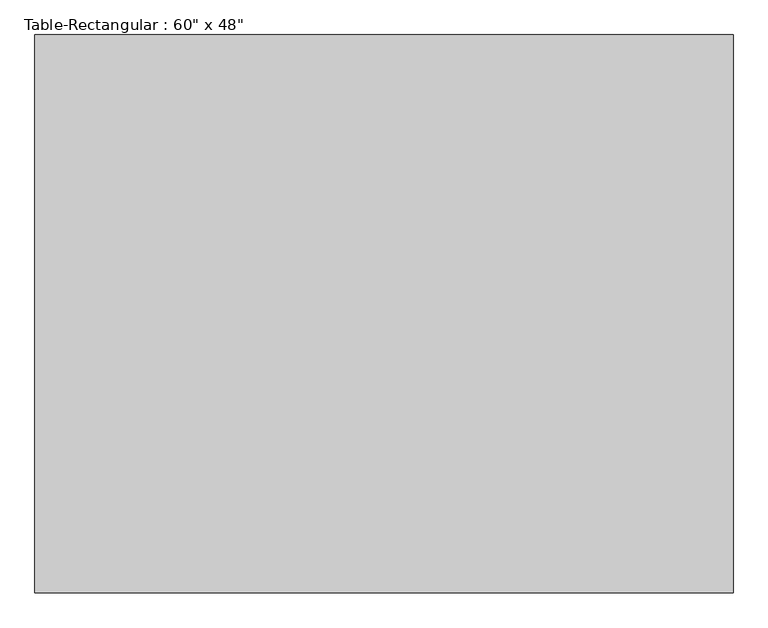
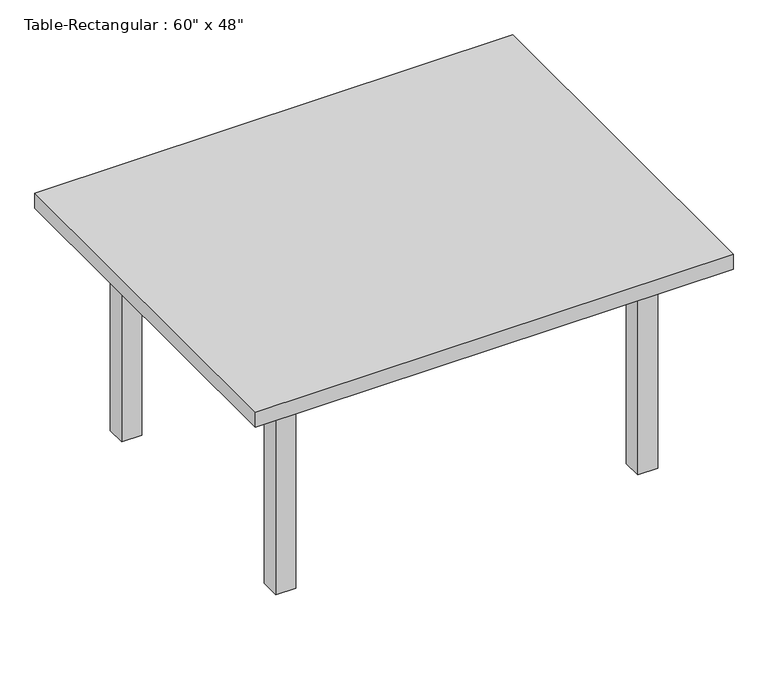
"""IFC4 building model written with IfcOpenShell, lengths in millimetres: furniture geometry."""

import ifcopenshell
import ifcopenshell.guid

model = None  # the IFC model being written
_history = None  # IfcOwnerHistory: only IFC2X3 demands one
_inside = {}  # id of a spatial element -> (the spatial element, [elements in it])
_under = {}  # id of a project, library or spatial element -> (it, [spatial elements below it])
_declared = {}  # id of a project -> (the project, [libraries it declares])
_typed = {}  # id of a type object -> (the type object, [elements of that type])
_made_of = {}  # id of a material, layer set ... -> (it, [elements and type objects made of it])


def new_model(schema):
    """Start an empty IFC model of exactly this schema.

    Asked for "IFC4X3", IfcOpenShell would pick the latest addendum, in which some entities
    have other attributes; the version numbers below select the first issue.
    IFC2X3 requires an IfcOwnerHistory on every rooted entity: one is made here for all.
    """
    global model, _history
    if schema == "IFC4X3":
        model = ifcopenshell.file(schema_version=(4, 3, 0, 0))
    else:
        model = ifcopenshell.file(schema=schema)
    _inside.clear()
    _under.clear()
    _declared.clear()
    _typed.clear()
    _made_of.clear()
    _history = None
    if model.schema == "IFC2X3":
        org = make("IfcOrganization", Name="unknown")
        user = make(
            "IfcPersonAndOrganization",
            ThePerson=make("IfcPerson", FamilyName="unknown"),
            TheOrganization=org,
        )
        app = make(
            "IfcApplication",
            ApplicationDeveloper=org,
            Version="unknown",
            ApplicationFullName="unknown",
            ApplicationIdentifier="unknown",
        )
        _history = make(
            "IfcOwnerHistory",
            OwningUser=user,
            OwningApplication=app,
            ChangeAction="ADDED",
            CreationDate=0,
        )
    return model


def make(cls, **values):
    """One entity of the class cls with the attributes given. An attribute that is None is left unset."""
    return model.create_entity(
        cls, **{name: value for name, value in values.items() if value is not None}
    )


def rooted(cls, **values):
    """An entity with a GlobalId (a new one), such as an element, a storey or a relation."""
    return make(cls, GlobalId=ifcopenshell.guid.new(), OwnerHistory=_history, **values)


def si_unit(unit_type, name, prefix=None):
    """IfcSIUnit, for example si_unit("LENGTHUNIT", "METRE", prefix="MILLI")."""
    return make("IfcSIUnit", UnitType=unit_type, Prefix=prefix, Name=name)


def assignment(units):
    """IfcUnitAssignment: the units of a project."""
    return None if units is None else make("IfcUnitAssignment", Units=units)


def point(xyz):
    """IfcCartesianPoint."""
    return None if xyz is None else make("IfcCartesianPoint", Coordinates=xyz)


def direction(xyz):
    """IfcDirection."""
    return None if xyz is None else make("IfcDirection", DirectionRatios=xyz)


def frame(location, z_axis=None, x_axis=None):
    """IfcAxis2Placement3D, a coordinate frame: its origin and axes. An axis left out is left unset."""
    return make(
        "IfcAxis2Placement3D",
        Location=point(location),
        Axis=direction(z_axis),
        RefDirection=direction(x_axis),
    )


def origin():
    """The frame at (0, 0, 0) with its axes left unset."""
    return frame((0.0, 0.0, 0.0))


def origin_with_axes():
    """The frame at (0, 0, 0) with the z axis (0, 0, 1) and the x axis (1, 0, 0) written out."""
    return frame((0.0, 0.0, 0.0), z_axis=(0.0, 0.0, 1.0), x_axis=(1.0, 0.0, 0.0))


def place(relative_to, where):
    """IfcLocalPlacement: puts the frame where relative to a parent placement (None: the world)."""
    return make(
        "IfcLocalPlacement", PlacementRelTo=relative_to, RelativePlacement=where
    )


def context(
    kind, dimensions, precision=None, world=None, true_north=None, identifier=None
):
    """IfcGeometricRepresentationContext, for example the 3D "Model" context."""
    return make(
        "IfcGeometricRepresentationContext",
        ContextIdentifier=identifier,
        ContextType=kind,
        CoordinateSpaceDimension=dimensions,
        Precision=precision,
        WorldCoordinateSystem=world,
        TrueNorth=true_north,
    )


def project(units=None, contexts=None):
    """IfcProject with its units and contexts."""
    return rooted(
        "IfcProject",
        Name="project",
        RepresentationContexts=contexts,
        UnitsInContext=assignment(units),
    )


def spatial(cls, under=None, at=None, **own):
    """A site, building, storey or space (cls), placed at a placement, below another one or the project."""
    s = rooted(cls, ObjectPlacement=at, **own)
    if under is not None:
        _under.setdefault(under.id(), (under, []))[1].append(s)
    return s


def polyline(points):
    """IfcPolyline through the points."""
    return make("IfcPolyline", Points=[point(p) for p in points])


def outline(outer, holes=None, kind="AREA"):
    """IfcArbitraryClosedProfileDef: a profile drawn as a closed curve; with holes, ...WithVoids."""
    if holes is None:
        return make("IfcArbitraryClosedProfileDef", ProfileType=kind, OuterCurve=outer)
    return make(
        "IfcArbitraryProfileDefWithVoids",
        ProfileType=kind,
        OuterCurve=outer,
        InnerCurves=holes,
    )


def extrude(swept, where, along, depth):
    """IfcExtrudedAreaSolid: the profile swept, set in the frame where, extruded along a direction by depth."""
    return make(
        "IfcExtrudedAreaSolid",
        SweptArea=swept,
        Position=where,
        ExtrudedDirection=direction(along),
        Depth=depth,
    )


def shape(context_of_items, identifier, shape_type, items):
    """IfcShapeRepresentation: the items that make up one representation, for example the "Body"."""
    return make(
        "IfcShapeRepresentation",
        ContextOfItems=context_of_items,
        RepresentationIdentifier=identifier,
        RepresentationType=shape_type,
        Items=items,
    )


def source(mapping_origin, context_of_items, identifier, shape_type, items):
    """IfcRepresentationMap: a shape defined once, which mapped items show again and again."""
    return make(
        "IfcRepresentationMap",
        MappingOrigin=mapping_origin,
        MappedRepresentation=shape(context_of_items, identifier, shape_type, items),
    )


def transform(
    local_origin,
    x_axis=None,
    y_axis=None,
    z_axis=None,
    scale=None,
    scale2=None,
    scale3=None,
    uniform=True,
):
    """IfcCartesianTransformationOperator3D, or its non-uniform kind. x_axis, y_axis, z_axis: its Axis1, 2, 3."""
    if uniform:
        return make(
            "IfcCartesianTransformationOperator3D",
            Axis1=direction(x_axis),
            Axis2=direction(y_axis),
            LocalOrigin=point(local_origin),
            Scale=scale,
            Axis3=direction(z_axis),
        )
    return make(
        "IfcCartesianTransformationOperator3DnonUniform",
        Axis1=direction(x_axis),
        Axis2=direction(y_axis),
        LocalOrigin=point(local_origin),
        Scale=scale,
        Axis3=direction(z_axis),
        Scale2=scale2,
        Scale3=scale3,
    )


def mapped(mapping_source, mapping_target):
    """IfcMappedItem: shows the shape of a source again, moved by a transform."""
    return make(
        "IfcMappedItem", MappingSource=mapping_source, MappingTarget=mapping_target
    )


def made_of(thing, what):
    """Note that an element or type object is made of a material, layer set ...; save() writes the relation."""
    if what is not None:
        _made_of.setdefault(what.id(), (what, []))[1].append(thing)
    return thing


def element(
    cls,
    number,
    at=None,
    inside=None,
    cuts=None,
    type_object=None,
    material=None,
    context=None,
    identifier="Body",
    shape_type=None,
    held_by="IfcProductDefinitionShape",
    body=None,
    shapes=None,
    **own,
):
    """One element of the class cls, such as IfcWall. Its Tag is "e" and its number.

    at: its placement. inside: the storey or other place that contains it. cuts: it is an
    opening in that element (IfcRelVoidsElement). A single representation is given by context,
    identifier, shape_type and body (its items); several are given by shapes. held_by: the class
    of the entity that holds the representations. save() writes the other relations.
    """
    e = rooted(cls, Tag="e%d" % number, ObjectPlacement=at, **own)
    if body is not None:
        shapes = [shape(context, identifier, shape_type, body)]
    if shapes is not None:
        e.Representation = make(held_by, Representations=shapes)
    if inside is not None:
        _inside.setdefault(inside.id(), (inside, []))[1].append(e)
    if cuts is not None:
        rooted(
            "IfcRelVoidsElement", RelatingBuildingElement=cuts, RelatedOpeningElement=e
        )
    if type_object is not None:
        _typed.setdefault(type_object.id(), (type_object, []))[1].append(e)
    return made_of(e, material)


def aggregate(whole, parts):
    """IfcRelAggregates: a whole, such as a stair, and the parts it consists of."""
    return rooted("IfcRelAggregates", RelatingObject=whole, RelatedObjects=parts)


def save(model, path):
    """Write the relations noted so far, then the file.

    IfcRelAggregates (storeys below a building ...), IfcRelContainedInSpatialStructure (elements
    in a storey), IfcRelDefinesByType, IfcRelAssociatesMaterial and IfcRelDeclares: one each for
    every whole, place, type object, material and project.
    """
    for whole, parts in _under.values():
        aggregate(whole, parts)
    for where, things in _inside.values():
        rooted(
            "IfcRelContainedInSpatialStructure",
            RelatedElements=things,
            RelatingStructure=where,
        )
    for kind, things in _typed.values():
        rooted("IfcRelDefinesByType", RelatedObjects=things, RelatingType=kind)
    for what, things in _made_of.values():
        rooted("IfcRelAssociatesMaterial", RelatedObjects=things, RelatingMaterial=what)
    for by, libraries in _declared.values():
        rooted("IfcRelDeclares", RelatingContext=by, RelatedDefinitions=libraries)
    model.write(path)


def furniture_c94d3e50(model_context):
    return source(origin(), model_context, "Body", "SweptSolid", [
        extrude(outline(polyline([(546.1, 419.1), (546.1, 393.7), (-546.1, 393.7), (-546.1, 419.1), (546.1, 419.1)])), frame((0.0, 0.0, 609.6), z_axis=(0.0, 0.0, 1.0), x_axis=(1.0, 0.0, 0.0)), (0.0, 0.0, 1.0), 101.6),
        extrude(outline(polyline([(546.1, -419.1), (-546.1, -419.1), (-546.1, -393.7), (546.1, -393.7), (546.1, -419.1)])), frame((0.0, 0.0, 609.6), z_axis=(0.0, 0.0, 1.0), x_axis=(1.0, 0.0, 0.0)), (0.0, 0.0, 1.0), 101.6),
        extrude(outline(polyline([(-558.8, -393.7), (-584.2, -393.7), (-584.2, 393.7), (-558.8, 393.7), (-558.8, -393.7)])), frame((0.0, 0.0, 609.6), z_axis=(0.0, 0.0, 1.0), x_axis=(1.0, 0.0, 0.0)), (0.0, 0.0, 1.0), 101.6),
        extrude(outline(polyline([(558.8, -393.7), (558.8, 393.7), (584.2, 393.7), (584.2, -393.7), (558.8, -393.7)])), frame((0.0, 0.0, 609.6), z_axis=(0.0, 0.0, 1.0), x_axis=(1.0, 0.0, 0.0)), (0.0, 0.0, 1.0), 101.6),
        extrude(outline(polyline([(762.0, 609.6), (762.0, -609.6), (-762.0, -609.6), (-762.0, 609.6), (762.0, 609.6)])), frame((0.0, 0.0, 711.2), z_axis=(0.0, 0.0, 1.0), x_axis=(1.0, 0.0, 0.0)), (0.0, 0.0, 1.0), 50.8),
        extrude(outline(polyline([(-546.1, 457.2), (-546.1, 393.7), (-609.6, 393.7), (-609.6, 457.2), (-546.1, 457.2)])), origin_with_axes(), (0.0, 0.0, 1.0), 711.2),
        extrude(outline(polyline([(546.1, 457.2), (609.6, 457.2), (609.6, 393.7), (546.1, 393.7), (546.1, 457.2)])), origin_with_axes(), (0.0, 0.0, 1.0), 711.2),
        extrude(outline(polyline([(-546.1, -457.2), (-609.6, -457.2), (-609.6, -393.7), (-546.1, -393.7), (-546.1, -457.2)])), origin_with_axes(), (0.0, 0.0, 1.0), 711.2),
        extrude(outline(polyline([(546.1, -457.2), (546.1, -393.7), (609.6, -393.7), (609.6, -457.2), (546.1, -457.2)])), origin_with_axes(), (0.0, 0.0, 1.0), 711.2),
    ])


if __name__ == "__main__":
    model = new_model("IFC4")
    model_context = context("Model", 3, world=origin())
    ifc_project = project(units=[si_unit("LENGTHUNIT", "METRE", prefix="MILLI")], contexts=[model_context])
    site = spatial("IfcSite", under=ifc_project)
    building = spatial("IfcBuilding", under=site)
    placement = place(None, origin())
    furniture_shape = furniture_c94d3e50(model_context)
    element("IfcFurniture", 1, ObjectType="Table-Rectangular : 60\" x 48\"", at=placement, inside=building, context=model_context, shape_type="MappedRepresentation", body=[
        mapped(furniture_shape, transform((0.0, 0.0, 0.0), x_axis=(1.0, 0.0, 0.0), y_axis=(0.0, 1.0, 0.0), z_axis=(0.0, 0.0, 1.0))),
    ])
    save(model, "model.ifc")
